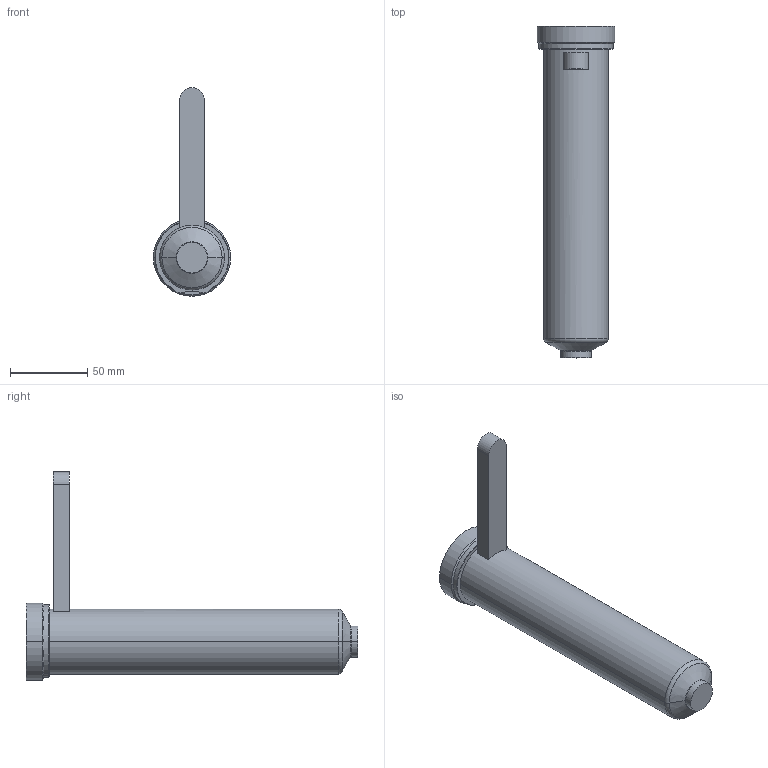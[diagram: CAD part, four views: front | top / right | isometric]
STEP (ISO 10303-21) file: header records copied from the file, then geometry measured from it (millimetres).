
FILE_DESCRIPTION((''),'2;1');
FILE_NAME('EO16_SG_SG_200_COT','2024-02-19T12:33:37',('sundharh'),(''),'CREO PARAMETRIC BY PTC INC, 2023154','CREO PARAMETRIC BY PTC INC, 2023154','');
FILE_SCHEMA(('CONFIG_CONTROL_DESIGN'));
Length unit declared in the file: millimetre
Products named in the file (1): EO16_SG_SG_200_COT
Bounding box: 50 x 215 x 135 mm (x, y, z)
Volume: 311734.1 mm3; surface area: 36140.6 mm2
Topology: 1 solids, 1 shells, 31 faces, 67 edges, 40 vertices
Faces by surface type: cylinder 11, plane 9, torus 7, cone 4
Entity records: 967 total; most frequent: CARTESIAN_POINT 234, DIRECTION 159, ORIENTED_EDGE 134, AXIS2_PLACEMENT_3D 67, EDGE_CURVE 67, VERTEX_POINT 40, CIRCLE 36, EDGE_LOOP 33
